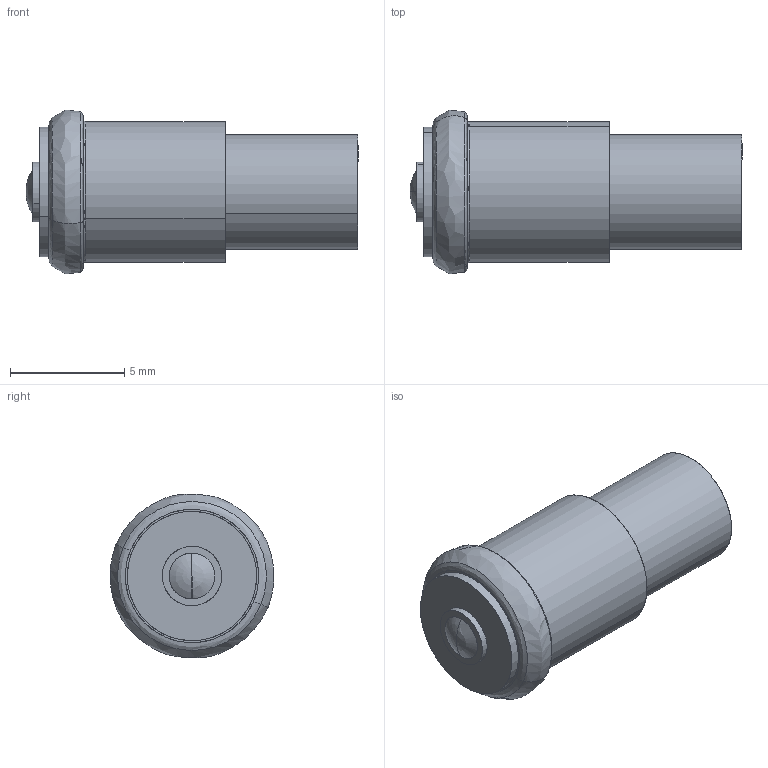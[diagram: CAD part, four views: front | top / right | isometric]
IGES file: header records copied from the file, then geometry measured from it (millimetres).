
Start section: SolidWorks IGES file using analytic representation for surfaces
Global section: file name: G:\Marl\DESIGN\Paul Robson\STEP-IGES FILES\206 Series\206 Series.IGS; native system: SolidWorks 2016; preprocessor: SolidWorks 2016; author: Paulr; date: 160803.093630; units: millimetre
Bounding box: 14.5 x 7.15 x 7.15 mm (x, y, z)
Surface area: 686.9 mm2 (no closed solid volume)
Topology: 0 solids, 0 shells, 47 faces, 664 edges, 662 vertices
Faces by surface type: bspline 29, revolution 18
